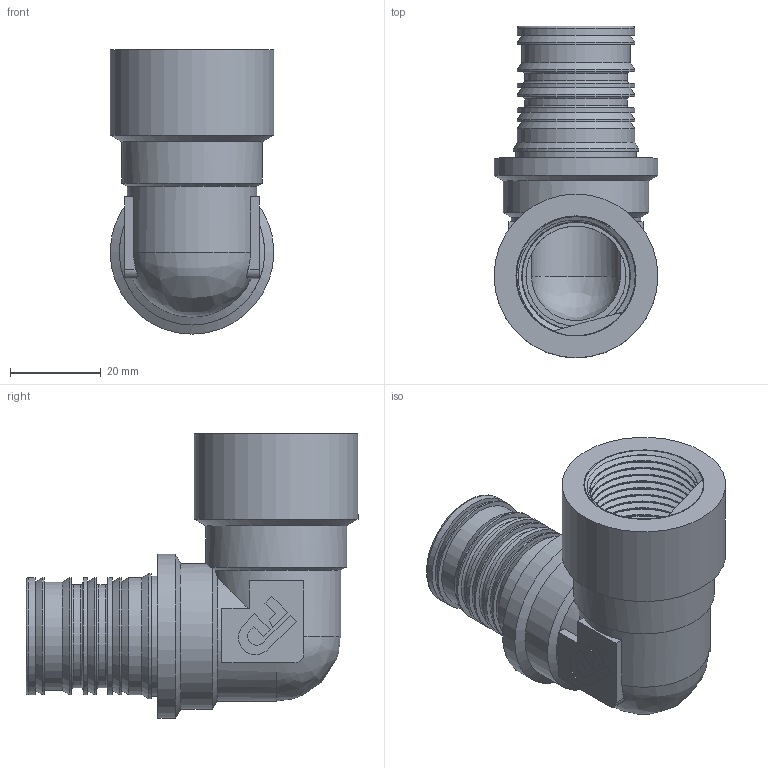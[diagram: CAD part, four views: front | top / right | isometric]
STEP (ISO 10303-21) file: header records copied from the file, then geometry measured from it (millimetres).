
FILE_DESCRIPTION(/* description */ (''),/* implementation_level */ '2;1');
FILE_NAME(/* name */ 'C:\Users\Doom\Desktop\Фадотех\Пресс\HDU17-1 15.01.2020\HDU17-1 15.01.2020.stp',/* time_stamp */ '2022-08-13T13:47:32+03:00',/* author */ ('Doom'),/* organization */ (''),/* preprocessor_version */ 'ST-DEVELOPER v18',/* originating_system */ 'Autodesk Inventor 2020',/* authorisation */ '');
FILE_SCHEMA (('AUTOMOTIVE_DESIGN { 1 0 10303 214 3 1 1 }'));
Length unit declared in the file: millimetre
Products named in the file (1): HDU15-1 15.01.2020
Bounding box: 36 x 73 x 62.5 mm (x, y, z)
Volume: 35091.2 mm3; surface area: 23295.1 mm2
Topology: 2 solids, 2 shells, 133 faces, 378 edges, 263 vertices
Faces by surface type: plane 63, cylinder 37, bspline 16, cone 12, torus 5
Full cylindrical faces by diameter (mm): 19.5 x1, 22 x1, 22.6 x2, 23.71 x10, 23.8 x1, 25.8 x8, 26.4 x2, 26.5 x1, 27.5 x1, 31 x1, 32 x1, 36 x2
Entity records: 10531 total; most frequent: CARTESIAN_POINT 7095, ORIENTED_EDGE 748, DIRECTION 651, EDGE_CURVE 374, VERTEX_POINT 261, AXIS2_PLACEMENT_3D 241, LINE 169, VECTOR 169
